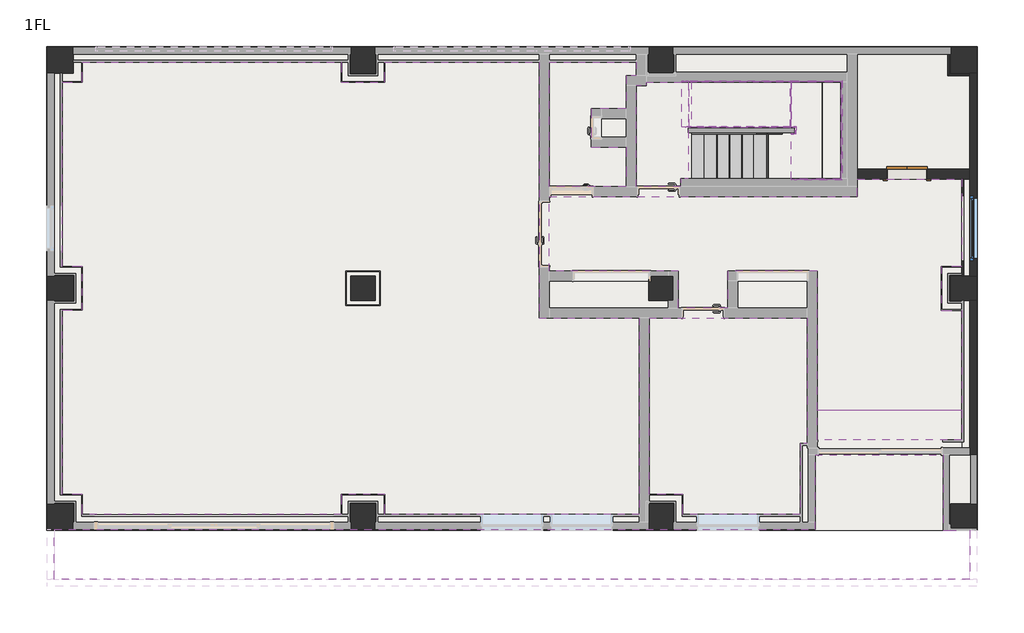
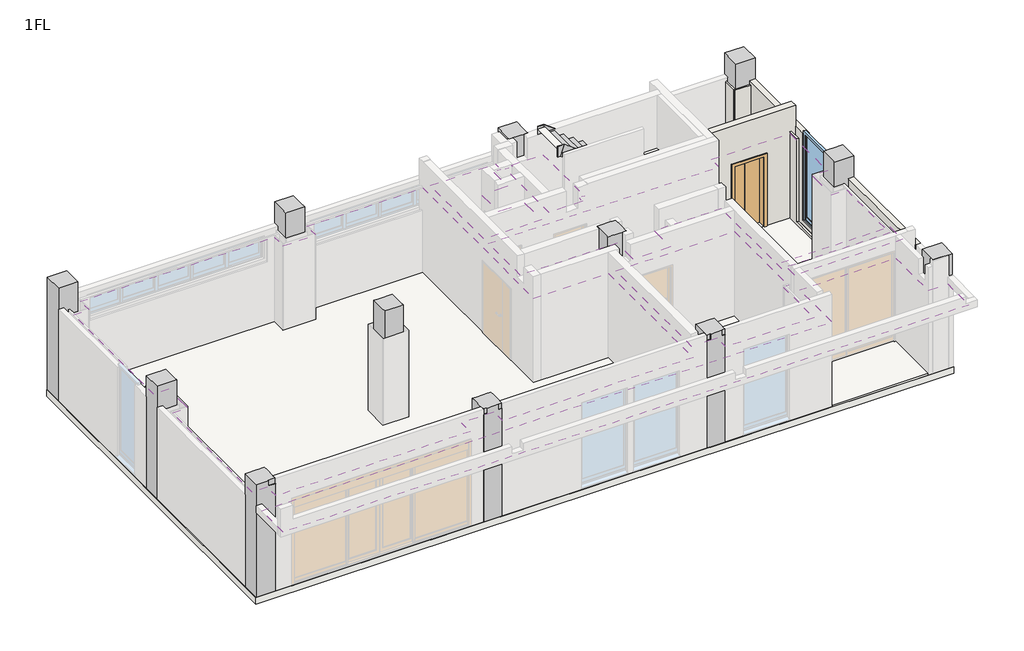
# One storey, part 3 of 3: 13 members, 12 columns, 9 coverings, 8 slabs, 5 walls, 2 stair flights, 1 door, 1 window.
"""IFC4 building model written with IfcOpenShell, lengths in millimetres."""

from ifc_helpers import new_model, si_unit, frame, origin, place, context, project, spatial, polyline, outline, extrude, faceted_brep, transform, mapped, element, save
from components import covering_45d0a06e, elv_h2000xw800_aa5de070, non_monolithic_landing_05e71245, non_monolithic_landing_b5af4ec4, stair_flight_45_mm_tread_10_mm_riser_4c90028d, stair_flight_45_mm_tread_10_mm_riser_32063b4d, window_c87d65a8

model = new_model("IFC4")

# Units and contexts
model_context = context("Model", 3, world=origin())
ifc_project = project(units=[si_unit("LENGTHUNIT", "METRE", prefix="MILLI")], contexts=[model_context])

# Site, building, storey
site = spatial("IfcSite", under=ifc_project)
building = spatial("IfcBuilding", under=site)
storey = spatial("IfcBuildingStorey", under=building, Name="1FL", Elevation=100.0)

# Columns
placement = place(None, origin())
element("IfcColumn", 1, ObjectType="RC柱 矩形_2 : •C1_500×500", at=placement, inside=storey, context=model_context, shape_type="Brep", body=[
    faceted_brep([(-270.0, -270.0, -50.0), (250.0, -270.0, -50.0), (250.0, -270.0, 50.0), (250.0, -270.0, 3100.0), (50.0, -270.0, 3100.0), (50.0, -270.0, 3250.0), (-270.0, -270.0, 3250.0), (-270.0, -270.0, 2650.0), (-270.0, -270.0, 2450.0), (-270.0, -250.0, 3250.0), (-270.0, 250.0, 3250.0), (-270.0, 250.0, 2649.9998563), (-270.0, 250.0, 50.0), (-270.0, 250.0, -50.0), (250.0, -250.0, 3100.0), (50.0, -250.0, 3100.0), (50.0, -250.0, 3250.0), (250.0, 250.0, -50.0), (250.0, 250.0, 3100.0), (250.0, 250.0, 3250.0), (250.0, 150.0, 3250.0), (250.0, -150.0, 3250.0), (250.0, -250.0, 3250.0), (50.0, 250.0, 3250.0), (55.0, 250.0, 3250.0)], [[[0, 1, 2, 3, 4, 5, 6, 7, 8]], [[0, 8, 7, 6, 9, 10, 11, 12, 13]], [[4, 3, 14, 15]], [[5, 4, 15, 16]], [[17, 1, 0, 13]], [[1, 17, 18, 19, 20, 21, 22, 14, 3, 2]], [[17, 13, 12, 11, 10, 23, 24, 19, 18]], [[10, 9, 6, 5, 16, 22, 21, 20, 19, 24, 23]], [[15, 14, 22, 16]]]),
])
element("IfcColumn", 2, ObjectType="RC柱 矩形_2 : •C1_500×500", at=placement, inside=storey, context=model_context, shape_type="Brep", body=[
    faceted_brep([(-270.0, 4340.0, 50.0), (-125.0, 4340.0, 50.0), (250.0, 4340.0, 50.0), (250.0, 4340.0, 3100.0), (250.0, 4340.0, 3250.0), (55.0, 4340.0, 3250.0), (50.0, 4340.0, 3250.0), (-270.0, 4340.0, 3250.0), (-270.0, 4340.0, 2649.9998563), (-270.0, 4840.0, 3250.0), (-270.0, 4840.0, 2649.9998563), (-270.0, 4840.0, 50.0), (-125.0, 4840.0, 50.0), (250.0, 4840.0, 50.0), (250.0, 4840.0, 3100.0), (250.0, 4840.0, 3250.0), (250.0, 4740.0, 3250.0), (250.0, 4440.0, 3250.0), (50.0, 4840.0, 3250.0), (55.0, 4840.0, 3250.0)], [[[0, 1, 2, 3, 4, 5, 6, 7, 8]], [[7, 9, 10, 11, 0, 8]], [[2, 1, 0, 11, 12, 13]], [[2, 13, 14, 15, 16, 17, 4, 3]], [[13, 12, 11, 10, 9, 18, 19, 15, 14]], [[9, 7, 6, 5, 4, 17, 16, 15, 19, 18]]]),
])
element("IfcColumn", 3, ObjectType="RC柱 矩形_2 : •C1_500×500", at=placement, inside=storey, context=model_context, shape_type="Brep", body=[
    faceted_brep([(-270.0, 8930.0, 50.0), (-125.0, 8930.0, 50.0), (250.0, 8930.0, 50.0), (250.0, 8930.0, 3100.0), (250.0, 8930.0, 3250.0), (55.0, 8930.0, 3250.0), (50.0, 8930.0, 3250.0), (-270.0, 8930.0, 3250.0), (-270.0, 8930.0, 2649.9998563), (-270.0, 9450.0, 3250.0), (-270.0, 9450.0, 50.0), (250.0, 9450.0, 50.0), (250.0, 9305.0, 50.0), (250.0, 9450.0, 2650.0), (250.0, 9450.0, 3250.0), (250.0, 9130.0, 3250.0), (250.0, 9125.0, 3250.0)], [[[0, 1, 2, 3, 4, 5, 6, 7, 8]], [[7, 9, 10, 0, 8]], [[2, 1, 0, 10, 11, 12]], [[2, 12, 11, 13, 14, 15, 16, 4, 3]], [[9, 14, 13, 11, 10]], [[9, 7, 6, 5, 4, 16, 15, 14]]]),
])
element("IfcColumn", 4, ObjectType="RC柱 矩形_2 : •C1_500×500", at=placement, inside=storey, context=model_context, shape_type="Brep", body=[
    faceted_brep([(5840.0, 8930.0, 50.0), (6340.0, 8930.0, 50.0), (6340.0, 8930.0, 3240.0), (6340.0, 8930.0, 3250.0), (5940.0, 8930.0, 3250.0), (5890.0, 8930.0, 3250.0), (5840.0, 8930.0, 3250.0), (5840.0, 8930.0, 3100.0), (5840.0, 9450.0, 50.0), (5840.0, 9305.0, 50.0), (5840.0, 9125.0, 3250.0), (5840.0, 9130.0, 3250.0), (5840.0, 9450.0, 3250.0), (5840.0, 9450.0, 2650.0), (6340.0, 9450.0, 50.0), (6340.0, 9305.0, 50.0), (6340.0, 9450.0, 2650.0), (6340.0, 9450.0, 3250.0), (6340.0, 9130.0, 3250.0)], [[[0, 1, 2, 3, 4, 5, 6, 7]], [[8, 9, 0, 7, 6, 10, 11, 12, 13]], [[1, 0, 9, 8, 14, 15]], [[1, 15, 14, 16, 17, 18, 3, 2]], [[12, 17, 16, 14, 8, 13]], [[17, 12, 11, 10, 6, 5, 4, 3, 18]]]),
])
element("IfcColumn", 5, ObjectType="RC柱 矩形 : •C1_500×500", at=placement, inside=storey, context=model_context, shape_type="Brep", body=[
    faceted_brep([(6340.0, 4840.0, 3250.0), (5940.0, 4840.0, 3250.0), (5890.0, 4840.0, 3250.0), (5840.0, 4840.0, 3250.0), (5840.0, 4740.0, 3250.0), (5840.0, 4440.0, 3250.0), (5840.0, 4340.0, 3250.0), (5940.0, 4340.0, 3250.0), (6240.0, 4340.0, 3250.0), (6340.0, 4340.0, 3250.0), (6340.0, 4390.0, 3250.0), (6340.0, 4440.0, 3250.0), (6340.0, 4840.0, 50.0), (5840.0, 4840.0, 50.0), (5840.0, 4840.0, 3100.0), (6340.0, 4840.0, 3240.0), (5840.0, 4340.0, 50.0), (5840.0, 4340.0, 3100.0), (6340.0, 4340.0, 50.0), (6340.0, 4340.0, 3100.0)], [[[0, 1, 2, 3, 4, 5, 6, 7, 8, 9, 10, 11]], [[12, 13, 14, 3, 2, 1, 0, 15]], [[13, 16, 17, 6, 5, 4, 3, 14]], [[16, 18, 19, 9, 8, 7, 6, 17]], [[18, 12, 15, 0, 11, 10, 9, 19]], [[13, 12, 18, 16]]]),
])
element("IfcColumn", 6, ObjectType="RC柱 矩形_2 : •C1_500×500", at=placement, inside=storey, context=model_context, shape_type="Brep", body=[
    faceted_brep([(5840.0, -270.0, -50.0), (6340.0, -270.0, -50.0), (6340.0, -270.0, 50.0), (6340.0, -270.0, 3100.0), (6240.0, -270.0, 3100.0), (6240.0, -270.0, 3250.0), (5940.0, -270.0, 3250.0), (5940.0, -270.0, 3100.0), (5840.0, -270.0, 3100.0), (5840.0, -270.0, 50.0), (5840.0, -250.0, 3100.0), (5840.0, -250.0, 3250.0), (5840.0, -150.0, 3250.0), (5840.0, 150.0, 3250.0), (5840.0, 250.0, 3250.0), (5840.0, 250.0, 3100.0), (5840.0, 250.0, -50.0), (6340.0, -250.0, 3100.0), (6240.0, -250.0, 3100.0), (5940.0, -250.0, 3250.0), (5940.0, -250.0, 3100.0), (6240.0, -250.0, 3250.0), (6340.0, -250.0, 3250.0), (6340.0, 250.0, -50.0), (6340.0, 250.0, 3100.0), (6340.0, 250.0, 3250.0), (6340.0, 150.0, 3250.0), (6340.0, -150.0, 3250.0), (5940.0, 250.0, 3250.0), (6240.0, 250.0, 3250.0)], [[[0, 1, 2, 3, 4, 5, 6, 7, 8, 9]], [[0, 9, 8, 10, 11, 12, 13, 14, 15, 16]], [[4, 3, 17, 18]], [[7, 6, 19, 20]], [[5, 4, 18, 21]], [[10, 20, 19, 11]], [[18, 17, 22, 21]], [[23, 1, 0, 16]], [[1, 23, 24, 25, 26, 27, 22, 17, 3, 2]], [[23, 16, 15, 14, 28, 29, 25, 24]], [[6, 5, 21, 22, 27, 26, 25, 29, 28, 14, 13, 12, 11, 19]], [[8, 7, 20, 10]]]),
])
element("IfcColumn", 7, ObjectType="RC柱 矩形 : •C1_500×500", at=placement, inside=storey, context=model_context, shape_type="Brep", body=[
    faceted_brep([(12340.0, 4840.0, 3250.0), (12240.0, 4840.0, 3250.0), (11840.0, 4840.0, 3250.0), (11840.0, 4440.0, 3250.0), (11840.0, 4390.0, 3250.0), (11840.0, 4340.0, 3250.0), (11940.0, 4340.0, 3250.0), (12240.0, 4340.0, 3250.0), (12340.0, 4340.0, 3250.0), (12340.0, 4390.0, 3250.0), (12340.0, 4440.0, 3250.0), (12340.0, 4740.0, 3250.0), (12340.0, 4840.0, 3240.0), (12340.0, 4840.0, 50.0), (12240.0, 4840.0, 50.0), (11840.0, 4840.0, 50.0), (11840.0, 4840.0, 100.0), (11840.0, 4840.0, 2127.5), (11840.0, 4840.0, 3240.0), (11840.0, 4739.9999966, 50.0), (11840.0, 4340.0, 50.0), (11840.0, 4340.0, 3100.0), (12240.0, 4340.0, 50.0), (12340.0, 4340.0, 50.0), (12340.0, 4340.0, 3100.0)], [[[0, 1, 2, 3, 4, 5, 6, 7, 8, 9, 10, 11]], [[2, 1, 0, 12, 13, 14, 15, 16, 17, 18]], [[15, 19, 20, 21, 5, 4, 3, 2, 18, 17, 16]], [[20, 22, 23, 24, 8, 7, 6, 5, 21]], [[23, 13, 12, 0, 11, 10, 9, 8, 24]], [[15, 14, 13, 23, 22, 20, 19]]]),
])
element("IfcColumn", 8, ObjectType="RC柱 矩形_2 : •C1_500×500", at=placement, inside=storey, context=model_context, shape_type="Brep", body=[
    faceted_brep([(11840.0, -270.0, -50.0), (12340.0, -270.0, -50.0), (12340.0, -270.0, 50.0), (12340.0, -270.0, 3100.0), (12240.0, -270.0, 3100.0), (12240.0, -270.0, 3250.0), (11940.0, -270.0, 3250.0), (11940.0, -270.0, 3100.0), (11840.0, -270.0, 3100.0), (11840.0, -270.0, 50.0), (11840.0, 250.0, -50.0), (11840.0, -250.0, 3100.0), (11840.0, -250.0, 3250.0), (11840.0, -150.0, 3250.0), (11840.0, 150.0, 3250.0), (11840.0, 250.0, 3250.0), (11840.0, 250.0, 3100.0), (11840.0, 250.0, 50.0), (12340.0, -250.0, 3100.0), (12240.0, -250.0, 3100.0), (12240.0, -250.0, 3250.0), (11940.0, -250.0, 3250.0), (11940.0, -250.0, 3100.0), (12340.0, -250.0, 3250.0), (12340.0, 250.0, -50.0), (12340.0, 250.0, 3100.0), (12340.0, 250.0, 3250.0), (12340.0, 150.0, 3250.0), (12340.0, -150.0, 3250.0), (11940.0, 250.0, 3250.0), (12240.0, 250.0, 3250.0)], [[[0, 1, 2, 3, 4, 5, 6, 7, 8, 9]], [[10, 0, 9, 8, 11, 12, 13, 14, 15, 16, 17]], [[18, 19, 4, 3]], [[19, 20, 5, 4]], [[21, 22, 7, 6]], [[19, 18, 23, 20]], [[11, 22, 21, 12]], [[24, 1, 0, 10]], [[1, 24, 25, 26, 27, 28, 23, 18, 3, 2]], [[24, 10, 17, 16, 15, 29, 30, 26, 25]], [[26, 30, 29, 15, 14, 13, 12, 21, 6, 5, 20, 23, 28, 27]], [[22, 11, 8, 7]]]),
])
element("IfcColumn", 9, ObjectType="RC柱 矩形_2 : •C1_500×500", at=placement, inside=storey, context=model_context, shape_type="Brep", body=[
    faceted_brep([(18450.0, -250.0, 3250.0), (18330.0, -250.0, 3250.0), (18130.0, -250.0, 3250.0), (17930.0, -250.0, 3250.0), (17930.0, -250.0, 3100.0), (17930.0, -250.0, 50.0), (18330.0, -250.0, 50.0), (18450.0, -250.0, 50.0), (18450.0, -250.0, 2650.0), (17930.0, 250.0, 50.0), (17930.0, -164.9999682, 50.0), (17930.0, -164.9999682, 3250.0), (17930.0, -150.0, 3250.0), (17930.0, 150.0, 3250.0), (17930.0, 250.0, 3250.0), (17930.0, 250.0, 3100.0), (18330.0, 250.0, 50.0), (18450.0, 250.0, 50.0), (18450.0, 250.0, 3250.0), (18450.0, 250.0, 2650.0), (18125.0, 250.0, 3250.0), (18130.0, 250.0, 3250.0)], [[[0, 1, 2, 3, 4, 5, 6, 7, 8]], [[9, 10, 5, 4, 3, 11, 12, 13, 14, 15]], [[5, 10, 9, 16, 17, 7, 6]], [[18, 0, 8, 7, 17, 19]], [[17, 16, 9, 15, 14, 20, 21, 18, 19]], [[0, 18, 21, 20, 14, 13, 12, 11, 3, 2, 1]]]),
])
element("IfcColumn", 10, ObjectType="RC柱 矩形_2 : •C1_500×500", at=placement, inside=storey, context=model_context, shape_type="Brep", body=[
    faceted_brep([(17930.0, 4340.0, 50.0), (18305.0, 4340.0, 50.0), (18450.0, 4340.0, 50.0), (18450.0, 4340.0, 2650.0), (18450.0, 4340.0, 3250.0), (18130.0, 4340.0, 3250.0), (18125.0, 4340.0, 3250.0), (17930.0, 4340.0, 3250.0), (17930.0, 4340.0, 3100.0), (17930.0, 4840.0, 50.0), (17930.0, 4390.0, 3250.0), (17930.0, 4440.0, 3250.0), (17930.0, 4840.0, 3250.0), (17930.0, 4840.0, 3240.0), (18305.0, 4840.0, 50.0), (18450.0, 4840.0, 50.0), (18450.0, 4840.0, 2650.0), (18450.0, 4840.0, 3250.0), (18125.0, 4840.0, 3250.0), (18130.0, 4840.0, 3250.0)], [[[0, 1, 2, 3, 4, 5, 6, 7, 8]], [[9, 0, 8, 7, 10, 11, 12, 13]], [[2, 1, 0, 9, 14, 15]], [[15, 16, 17, 4, 3, 2]], [[17, 16, 15, 14, 9, 13, 12, 18, 19]], [[4, 17, 19, 18, 12, 11, 10, 7, 6, 5]]]),
])
element("IfcColumn", 11, ObjectType="RC柱 矩形_2 : •C1_500×500", at=placement, inside=storey, context=model_context, shape_type="Brep", body=[
    faceted_brep([(18450.0, 8930.0, 3250.0), (18130.0, 8930.0, 3250.0), (17930.0, 8930.0, 3250.0), (17930.0, 8930.0, 50.0), (18305.0, 8930.0, 50.0), (18450.0, 8930.0, 50.0), (18450.0, 8930.0, 2650.0), (17930.0, 9130.0, 3250.0), (17930.0, 9450.0, 3250.0), (17930.0, 9450.0, 2650.0), (17930.0, 9450.0, 50.0), (17930.0, 9305.0, 50.0), (18450.0, 9450.0, 50.0), (18450.0, 9450.0, 3250.0)], [[[0, 1, 2, 3, 4, 5, 6]], [[2, 7, 8, 9, 10, 11, 3]], [[5, 4, 3, 11, 10, 12]], [[13, 0, 6, 5, 12]], [[8, 13, 12, 10, 9]], [[0, 13, 8, 7, 2, 1]]]),
])
element("IfcColumn", 12, ObjectType="RC柱 矩形_2 : •C1_500×500", at=placement, inside=storey, context=model_context, shape_type="Brep", body=[
    faceted_brep([(11840.0, 8930.0, -50.0), (12340.0, 8930.0, -50.0), (12340.0, 8930.0, 50.0), (12340.0, 8930.0, 3240.0), (12340.0, 8930.0, 3250.0), (12240.0, 8930.0, 3250.0), (11940.0, 8930.0, 3250.0), (11840.0, 8930.0, 3250.0), (11840.0, 8930.0, 3240.0), (11840.0, 8930.0, 50.0), (11840.0, 9450.0, -50.0), (11840.0, 8947.5, 3250.0), (11840.0, 9130.0, 3250.0), (11840.0, 9450.0, 3250.0), (11840.0, 9450.0, 2650.0), (11840.0, 9450.0, 50.0), (12340.0, 9450.0, -50.0), (12340.0, 9450.0, 50.0), (12340.0, 9450.0, 2650.0), (12340.0, 9450.0, 3250.0), (12340.0, 9130.0, 3250.0), (12340.0, 8947.5, 3250.0)], [[[0, 1, 2, 3, 4, 5, 6, 7, 8, 9]], [[10, 0, 9, 8, 7, 11, 12, 13, 14, 15]], [[16, 1, 0, 10]], [[1, 16, 17, 18, 19, 20, 21, 4, 3, 2]], [[16, 10, 15, 14, 13, 19, 18, 17]], [[4, 21, 20, 19, 13, 12, 11, 7, 6, 5]]]),
])

# Coverings
element("IfcCovering", 13, ObjectType="t=4mm", at=placement, inside=storey, context=model_context, shape_type="Brep", body=[
    faceted_brep([(17737.5, 4147.5, 2504.0), (17737.5, 5032.5, 2504.0), (18147.5, 5032.5, 2504.0), (18147.5, 6790.0000027, 2504.0), (16040.0, 6790.0000027, 2504.0), (16040.0, 6440.0, 2504.0), (9840.0, 6440.0, 2504.0), (9840.0, 4939.9999966, 2504.0), (12440.0, 4939.9999966, 2504.0), (12440.0, 4190.0, 2504.0), (13440.0, 4190.0, 2504.0), (13440.0, 4940.0, 2504.0), (15240.0, 4940.0, 2504.0), (15240.0, 2136.5, 2504.0), (15240.0, 2132.5, 2504.0), (18147.5, 2132.5, 2504.0), (18147.5, 2136.5, 2504.0), (18147.5, 4147.5, 2504.0), (17737.5, 4147.5, 2500.0), (18147.5, 4147.5, 2500.0), (18147.5, 2132.5, 2500.0), (15240.0, 2132.5, 2500.0), (15240.0, 4940.0, 2500.0), (13440.0, 4940.0, 2500.0), (13440.0, 4190.0, 2500.0), (12440.0, 4190.0, 2500.0), (12440.0, 4939.9999966, 2500.0), (9840.0, 4939.9999966, 2500.0), (9840.0, 6440.0, 2500.0), (16040.0, 6440.0, 2500.0), (16040.0, 6790.0000027, 2500.0), (18147.5, 6790.0000027, 2500.0), (18147.5, 5032.5, 2500.0), (17737.5, 5032.5, 2500.0)], [[[0, 1, 2, 3, 4, 5, 6, 7, 8, 9, 10, 11, 12, 13, 14, 15, 16, 17]], [[18, 19, 20, 21, 22, 23, 24, 25, 26, 27, 28, 29, 30, 31, 32, 33]], [[1, 0, 18, 33]], [[2, 1, 33, 32]], [[3, 2, 32, 31]], [[4, 3, 31, 30]], [[5, 4, 30, 29]], [[6, 5, 29, 28]], [[7, 6, 28, 27]], [[8, 7, 27, 26]], [[9, 8, 26, 25]], [[10, 9, 25, 24]], [[11, 10, 24, 23]], [[12, 11, 23, 22]], [[14, 13, 12, 22, 21]], [[15, 14, 21, 20]], [[17, 16, 15, 20, 19]], [[0, 17, 19, 18]]]),
])
element("IfcCovering", 14, ObjectType="t=4mm", at=placement, inside=storey, context=model_context, shape_type="Brep", body=[
    faceted_brep([(18147.5, 1532.5, 2679.0), (18147.5, 2136.5, 2679.0), (15240.0, 2136.5, 2679.0), (15240.0, 1532.5, 2679.0), (18147.5, 1532.5, 2675.0), (15240.0, 1532.5, 2675.0), (15240.0, 2132.5, 2675.0), (15240.0, 2136.5, 2675.0), (18147.5, 2136.5, 2675.0), (18147.5, 2132.5, 2675.0)], [[[0, 1, 2, 3]], [[4, 5, 6, 7, 8, 9]], [[1, 0, 4, 9, 8]], [[2, 1, 8, 7]], [[3, 2, 7, 6, 5]], [[0, 3, 5, 4]]]),
])
element("IfcCovering", 15, ObjectType="t=4mm", at=placement, inside=storey, context=model_context, shape_type="SweptSolid", body=[
    extrude(outline(polyline([(14897.5, 1462.5), (14897.5, 32.5), (12528.5, 32.5), (12528.5, 438.5), (11849.9999991, 438.5), (11849.9999991, 3990.0), (15040.0, 3990.0), (15040.0, 1462.5), (14897.5, 1462.5)])), frame((0.0, 0.0, 2500.0), z_axis=(0.0, 0.0, 1.0), x_axis=(1.0, 0.0, 0.0)), (0.0, 0.0, 1.0), 4.0),
])
element("IfcCovering", 16, ObjectType="t=4mm", at=placement, inside=storey, context=model_context, shape_type="SweptSolid", body=[
    extrude(outline(polyline([(11649.9999991, 3990.0), (11649.9999991, 32.5), (6528.5, 32.5), (6528.5, 438.5), (5651.5, 438.5), (5651.5, 32.5), (438.5, 32.5), (438.5, 438.5), (32.5, 438.5), (32.5, 4151.5), (438.5, 4151.5), (438.5, 5028.5), (32.5, 5028.5), (32.5, 8741.5), (438.5, 8741.5), (438.5, 9147.5), (5651.5, 9147.5), (5651.5, 8741.5), (6528.5000044, 8741.5), (6528.5000044, 9147.5), (9640.0, 9147.5), (9640.0, 3990.0), (11649.9999991, 3990.0)]), holes=[polyline([(6438.5, 4241.5), (6438.5, 4938.4999969), (5741.5, 4938.4999969), (5741.5, 4241.5), (6438.5, 4241.5)])]), frame((0.0, 0.0, 2500.0), z_axis=(0.0, 0.0, 1.0), x_axis=(1.0, 0.0, 0.0)), (0.0, 0.0, 1.0), 4.0),
])
element("IfcCovering", 17, ObjectType="t=4mm", at=placement, inside=storey, context=model_context, shape_type="SweptSolid", body=[
    extrude(outline(polyline([(11390.0000045, 6640.0), (9840.0, 6640.0), (9840.0, 9147.5), (11590.452236, 9147.5), (11590.452236, 8880.0), (11390.0000045, 8880.0), (11390.0000045, 8210.0), (10690.0, 8210.0), (10690.0, 7440.0), (11390.0000045, 7440.0), (11390.0000045, 6640.0)])), frame((0.0, 0.0, 2500.0), z_axis=(0.0, 0.0, 1.0), x_axis=(1.0, 0.0, 0.0)), (0.0, 0.0, 1.0), 4.0),
])
element("IfcCovering", 18, ObjectType="天井-スパンドレル02 t=12mm", at=placement, inside=storey, context=model_context, shape_type="SweptSolid", body=[
    extrude(outline(polyline([(18305.0, -1275.0), (-125.0, -1275.0), (-125.0, -270.0), (15200.0, -270.0), (15200.0, 1230.0), (17780.0, 1230.0), (17780.0, -284.9999682), (18305.0, -284.9999682), (18305.0, -1275.0)])), frame((0.0, 0.0, 2460.0), z_axis=(0.0, 0.0, 1.0), x_axis=(1.0, 0.0, 0.0)), (0.0, 0.0, 1.0), 12.0),
])
element("IfcCovering", 19, ObjectType="t=4mm", at=placement, inside=storey, context=model_context, shape_type="Brep", body=[
    faceted_brep([(15710.0, 6804.5, 954.0), (15710.0, 8747.5, 954.0), (15335.0, 8747.5, 954.0), (15335.0, 6804.5, 954.0), (15338.9999956, 6804.5, 954.0), (15710.0, 6804.5, 950.0), (15335.0, 6804.5, 950.0), (15335.0, 8747.5, 950.0), (15710.0, 8747.5, 950.0)], [[[0, 1, 2, 3, 4]], [[5, 6, 7, 8]], [[1, 0, 5, 8]], [[2, 1, 8, 7]], [[3, 2, 7, 6]], [[0, 4, 3, 6, 5]]]),
])
element("IfcCovering", 20, ObjectType="t=4mm", at=placement, inside=storey, context=model_context, shape_type="SweptSolid", body=[
    extrude(outline(polyline([(11590.0000045, 8680.0), (11790.452236, 8680.0), (11790.452236, 8747.5), (12642.5000045, 8747.5), (12642.5000045, 6804.5), (12490.0, 6804.5), (12490.0, 6640.0), (11590.0000045, 6640.0), (11590.0000045, 8680.0)])), frame((0.0, 0.0, 2640.0), z_axis=(0.0, 0.0, 1.0), x_axis=(1.0, 0.0, 0.0)), (0.0, 0.0, 1.0), 4.0),
])
covering_shape = covering_45d0a06e(model_context)
element("IfcCovering", 21, ObjectType="天井 1 : 天井 1", at=placement, inside=storey, context=model_context, shape_type="MappedRepresentation", body=[
    mapped(covering_shape, transform((0.0, 0.0, 0.0), x_axis=(1.0, 0.0, 0.0), y_axis=(0.0, 1.0, 0.0), z_axis=(0.0, 0.0, 1.0))),
])

# Door
elv_h2000xw800_shape = elv_h2000xw800_aa5de070(model_context)
element("IfcDoor", 22, ObjectType="D_EV_壁付 : ELV_H2000xW800", at=placement, inside=storey, context=model_context, shape_type="MappedRepresentation", body=[
    mapped(elv_h2000xw800_shape, transform((17145.4856443, 6890.0000027, 100.0), x_axis=(1.0, 0.0, 0.0), y_axis=(0.0, 1.0, 0.0), z_axis=(0.0, 0.0, 1.0))),
])

# Members
element("IfcMember", 23, ObjectType="Stringer - 12 mm Width", at=placement, inside=storey, context=model_context, shape_type="SweptSolid", body=[
    extrude(outline(polyline([(338.9838425, 12712.5), (100.0, 12712.5), (100.0, 12893.9149939), (1433.6290044, 14712.5), (1805.6505092, 14712.5), (338.9838425, 12712.5)])), frame((0.0, 7700.0, 0.0), z_axis=(0.0, 1.0, 0.0), x_axis=(0.0, 0.0, 1.0)), (0.0, 0.0, 1.0), 16.0),
])
element("IfcMember", 24, ObjectType="Stringer - 12 mm Width", at=placement, inside=storey, context=model_context, shape_type="SweptSolid", body=[
    extrude(outline(polyline([(338.9838425, 12712.5), (100.0, 12712.5), (100.0, 12893.9149939), (1517.5, 14826.8695394), (1817.5, 14728.6583965), (338.9838425, 12712.5)])), frame((0.0, 6774.0, 0.0), z_axis=(0.0, 1.0, 0.0), x_axis=(0.0, 0.0, 1.0)), (0.0, 0.0, 1.0), 16.0),
])
element("IfcMember", 25, ObjectType="Stringer - 12 mm Width", at=placement, inside=storey, context=model_context, shape_type="SweptSolid", body=[
    extrude(outline(polyline([(14696.5000334, 8775.9999854), (14712.5000334, 8759.9999854), (14712.5000334, 7850.0000116), (14696.5000334, 7834.0000116), (14696.5000334, 8775.9999854)])), frame((0.0, 0.0, 1517.5), z_axis=(0.0, 0.0, 1.0), x_axis=(1.0, 0.0, 0.0)), (0.0, 0.0, 1.0), 300.0),
])
element("IfcMember", 26, ObjectType="Stringer - 12 mm Width", at=placement, inside=storey, context=model_context, shape_type="SweptSolid", body=[
    extrude(outline(polyline([(14696.5000334, 7834.0000116), (14712.5000334, 7850.0000116), (14812.4999776, 7850.0000116), (14796.4999776, 7834.0000116), (14696.5000334, 7834.0000116)])), frame((0.0, 0.0, 1517.5), z_axis=(0.0, 0.0, 1.0), x_axis=(1.0, 0.0, 0.0)), (0.0, 0.0, 1.0), 300.0),
])
element("IfcMember", 27, ObjectType="Stringer - 12 mm Width", at=placement, inside=storey, context=model_context, shape_type="SweptSolid", body=[
    extrude(outline(polyline([(14796.4999776, 7834.0000116), (14812.4999776, 7850.0000116), (14812.4999776, 7700.0000224), (14796.4999776, 7716.0000224), (14796.4999776, 7834.0000116)])), frame((0.0, 0.0, 1517.5), z_axis=(0.0, 0.0, 1.0), x_axis=(1.0, 0.0, 0.0)), (0.0, 0.0, 1.0), 300.0),
])
element("IfcMember", 28, ObjectType="Stringer - 12 mm Width", at=placement, inside=storey, context=model_context, shape_type="SweptSolid", body=[
    extrude(outline(polyline([(14796.4999776, 7716.0000224), (14812.4999776, 7700.0000224), (14712.5, 7700.0000224), (14712.5, 7716.0000224), (14796.4999776, 7716.0000224)])), frame((0.0, 0.0, 1517.5), z_axis=(0.0, 0.0, 1.0), x_axis=(1.0, 0.0, 0.0)), (0.0, 0.0, 1.0), 300.0),
])
element("IfcMember", 29, ObjectType="Stringer - 12 mm Width", at=placement, inside=storey, context=model_context, shape_type="Brep", body=[
    faceted_brep([(14728.6583965, 6790.0, 1817.5), (14728.6583965, 6774.0, 1817.5), (15738.5, 6774.0, 1817.5), (15722.5, 6790.0, 1817.5), (14826.8695394, 6790.0, 1517.5), (15722.5, 6790.0, 1517.5), (14826.8695394, 6774.0, 1517.5), (15738.5, 6774.0, 1517.5)], [[[0, 1, 2, 3]], [[4, 0, 3, 5]], [[6, 4, 5, 7]], [[1, 6, 7, 2]], [[1, 0, 4, 6]], [[2, 7, 5, 3]]]),
])
element("IfcMember", 30, ObjectType="Stringer - 12 mm Width", at=placement, inside=storey, context=model_context, shape_type="SweptSolid", body=[
    extrude(outline(polyline([(15738.5, 6774.0), (15722.5, 6790.0), (15722.5, 8759.9999854), (15738.5, 8775.9999854), (15738.5, 6774.0)])), frame((0.0, 0.0, 1517.5), z_axis=(0.0, 0.0, 1.0), x_axis=(1.0, 0.0, 0.0)), (0.0, 0.0, 1.0), 300.0),
])
element("IfcMember", 31, ObjectType="Stringer - 12 mm Width", at=placement, inside=storey, context=model_context, shape_type="SweptSolid", body=[
    extrude(outline(polyline([(15738.5, 8775.9999854), (15722.5, 8759.9999854), (14712.5000334, 8759.9999854), (14696.5000334, 8775.9999854), (15738.5, 8775.9999854)])), frame((0.0, 0.0, 1517.5), z_axis=(0.0, 0.0, 1.0), x_axis=(1.0, 0.0, 0.0)), (0.0, 0.0, 1.0), 300.0),
])
element("IfcMember", 32, ObjectType="Stringer - 12 mm Width", at=placement, inside=storey, context=model_context, shape_type="SweptSolid", body=[
    extrude(outline(polyline([(1616.9623378, 14700.5000334), (1988.9838425, 14700.5000334), (3467.5, 12684.3416368), (3167.5, 12586.130494), (1616.9623378, 14700.5000334)])), frame((0.0, 7833.9999985, 0.0), z_axis=(0.0, 1.0, 0.0), x_axis=(0.0, 0.0, 1.0)), (0.0, 0.0, 1.0), 16.0),
])
element("IfcMember", 33, ObjectType="Stringer - 12 mm Width", at=placement, inside=storey, context=model_context, shape_type="SweptSolid", body=[
    extrude(outline(polyline([(1616.9623378, 14700.5000334), (1988.9838425, 14700.5000334), (3467.5, 12684.3416368), (3167.5, 12586.130494), (1616.9623378, 14700.5000334)])), frame((0.0, 8759.9999985, 0.0), z_axis=(0.0, 1.0, 0.0), x_axis=(0.0, 0.0, 1.0)), (0.0, 0.0, 1.0), 16.0),
])
element("IfcMember", 34, ObjectType="Stringer - 12 mm Width", at=placement, inside=storey, context=model_context, shape_type="SweptSolid", body=[
    extrude(outline(polyline([(3467.5, 12512.5), (3167.5, 12512.5), (3167.5, 12586.130494), (3467.5, 12684.3416368), (3467.5, 12512.5)])), frame((0.0, 7833.9999985, 0.0), z_axis=(0.0, 1.0, 0.0), x_axis=(0.0, 0.0, 1.0)), (0.0, 0.0, 1.0), 16.0),
])
element("IfcMember", 35, ObjectType="Stringer - 12 mm Width", at=placement, inside=storey, context=model_context, shape_type="SweptSolid", body=[
    extrude(outline(polyline([(3167.5, 12586.130494), (3467.5, 12684.3416368), (3467.5, 12512.5), (3167.5, 12512.5), (3167.5, 12586.130494)])), frame((0.0, 8759.9999985, 0.0), z_axis=(0.0, 1.0, 0.0), x_axis=(0.0, 0.0, 1.0)), (0.0, 0.0, 1.0), 16.0),
])

# Slabs
element("IfcSlab", 36, ObjectType="•S18", at=placement, inside=storey, context=model_context, shape_type="SweptSolid", body=[
    extrude(outline(polyline([(18465.0, 9465.0), (18465.0, -284.9999682), (-285.0, -284.9999682), (-285.0, 9465.0), (18465.0, 9465.0)])), frame((0.0, 0.0, -130.0), z_axis=(0.0, 0.0, 1.0), x_axis=(1.0, 0.0, 0.0)), (0.0, 0.0, 1.0), 180.0),
])
element("IfcSlab", 37, ObjectType="磁器質タイル貼 t=50mm", at=placement, inside=storey, context=model_context, shape_type="Brep", body=[
    faceted_brep([(13440.0, 4940.0, 50.0), (13440.0, 4190.0, 50.0), (12440.0, 4190.0, 50.0), (12440.0, 4939.9999966, 50.0), (9840.0, 4939.9999966, 50.0), (9840.0, 5022.5, 50.0), (9675.0, 5022.5, 50.0), (9675.0, 6352.5, 50.0), (9840.0, 6352.5, 50.0), (9840.0, 6480.0, 50.0), (10705.0, 6480.0, 50.0), (10705.0, 6440.0, 50.0), (11625.0, 6440.0, 50.0), (11625.0, 6475.0, 50.0), (11640.0, 6475.0, 50.0), (11640.0, 6605.0, 50.0), (12440.0, 6605.0, 50.0), (12440.0, 6475.0, 50.0), (12455.0, 6475.0, 50.0), (12455.0, 6440.0, 50.0), (16040.0, 6440.0, 50.0), (16040.0, 6640.0, 50.0), (16040.0, 6790.0000027, 50.0), (18147.5, 6790.0000027, 50.0), (18147.5, 5032.5, 50.0), (17737.5, 5032.5, 50.0), (17737.5, 4147.5, 50.0), (18147.5, 4147.5, 50.0), (18147.5, 1230.0, 50.0), (17780.0, 1230.0, 50.0), (17780.0, -284.9999682, 50.0), (15200.0, -284.9999682, 50.0), (15200.0, 1230.0, 50.0), (15240.0, 1230.0, 50.0), (15240.0, 4940.0, 50.0), (13440.0, 4940.0, 100.0), (15240.0, 4940.0, 100.0), (15240.0, 1230.0, 100.0), (15200.0, 1230.0, 100.0), (15200.0, -284.9999682, 100.0), (17780.0, -284.9999682, 100.0), (17780.0, 1230.0, 100.0), (18147.5, 1230.0, 100.0), (18147.5, 4147.5, 100.0), (17737.5, 4147.5, 100.0), (17737.5, 5032.5, 100.0), (18147.5, 5032.5, 100.0), (18147.5, 6790.0000027, 100.0), (16040.0, 6790.0000027, 100.0), (16040.0, 6440.0, 100.0), (12467.5, 6440.0, 100.0), (12455.0, 6440.0, 100.0), (12455.0, 6475.0, 100.0), (12440.0, 6475.0, 100.0), (12440.0, 6605.0, 100.0), (11640.0, 6605.0, 100.0), (11640.0, 6475.0, 100.0), (11625.0, 6475.0, 100.0), (11625.0, 6440.0, 100.0), (11612.5, 6440.0, 100.0), (10705.0, 6440.0, 100.0), (10705.0, 6480.0, 100.0), (9850.0, 6480.0, 100.0), (9840.0, 6480.0, 100.0), (9840.0, 6440.0, 100.0), (9840.0, 6352.5, 100.0), (9675.0, 6352.5, 100.0), (9675.0, 6340.0, 100.0), (9675.0, 5035.0, 100.0), (9675.0, 5022.5, 100.0), (9840.0, 5022.5, 100.0), (9840.0, 4939.9999966, 100.0), (12440.0, 4939.9999966, 100.0), (12440.0, 4190.0, 100.0), (13440.0, 4190.0, 100.0), (10705.0, 6480.0, 85.0), (10705.0, 6440.0, 85.0)], [[[0, 1, 2, 3, 4, 5, 6, 7, 8, 9, 10, 11, 12, 13, 14, 15, 16, 17, 18, 19, 20, 21, 22, 23, 24, 25, 26, 27, 28, 29, 30, 31, 32, 33, 34]], [[35, 36, 37, 38, 39, 40, 41, 42, 43, 44, 45, 46, 47, 48, 49, 50, 51, 52, 53, 54, 55, 56, 57, 58, 59, 60, 61, 62, 63, 64, 65, 66, 67, 68, 69, 70, 71, 72, 73, 74]], [[1, 0, 35, 74]], [[2, 1, 74, 73]], [[3, 2, 73, 72]], [[4, 3, 72, 71]], [[5, 4, 71, 70]], [[6, 5, 70, 69]], [[7, 6, 69, 68, 67, 66]], [[8, 7, 66, 65]], [[9, 8, 65, 64, 63]], [[10, 9, 63, 62, 61, 75]], [[22, 21, 20, 49, 48]], [[23, 22, 48, 47]], [[24, 23, 47, 46]], [[25, 24, 46, 45]], [[26, 25, 45, 44]], [[27, 26, 44, 43]], [[28, 27, 43, 42]], [[29, 28, 42, 41]], [[30, 29, 41, 40]], [[31, 30, 40, 39]], [[32, 31, 39, 38]], [[33, 32, 38, 37]], [[34, 33, 37, 36]], [[0, 34, 36, 35]], [[13, 12, 58, 57]], [[14, 13, 57, 56]], [[15, 14, 56, 55]], [[16, 15, 55, 54]], [[17, 16, 54, 53]], [[18, 17, 53, 52]], [[19, 18, 52, 51]], [[20, 19, 51, 50, 49]], [[11, 10, 75, 61, 60, 76]], [[12, 11, 76, 60, 59, 58]]]),
])
element("IfcSlab", 38, ObjectType="ビニル床ビシート-t50", at=placement, inside=storey, context=model_context, shape_type="Brep", body=[
    faceted_brep([(12500.0, 3990.0, 50.0), (12500.0, 4190.0, 50.0), (13380.0, 4190.0, 50.0), (13380.0, 3990.0, 50.0), (15040.0, 3990.0, 50.0), (15040.0, 1462.5, 50.0), (14897.5, 1462.5, 50.0), (14897.5, 32.5, 50.0), (12528.5, 32.5, 50.0), (12528.5, 438.5, 50.0), (11849.9999991, 438.5, 50.0), (11849.9999991, 3990.0, 50.0), (12500.0, 3990.0, 100.0), (11849.9999991, 3990.0, 100.0), (11849.9999991, 438.5, 100.0), (12528.5, 438.5, 100.0), (12528.5, 32.5, 100.0), (14897.5, 32.5, 100.0), (14897.5, 1462.5, 100.0), (15040.0, 1462.5, 100.0), (15040.0, 3990.0, 100.0), (13380.0, 3990.0, 100.0), (13380.0, 4190.0, 100.0), (13367.5, 4190.0, 100.0), (12512.5, 4190.0, 100.0), (12500.0, 4190.0, 100.0)], [[[0, 1, 2, 3, 4, 5, 6, 7, 8, 9, 10, 11]], [[12, 13, 14, 15, 16, 17, 18, 19, 20, 21, 22, 23, 24, 25]], [[5, 4, 20, 19]], [[8, 7, 17, 16]], [[11, 10, 14, 13]], [[0, 11, 13, 12]], [[1, 0, 12, 25]], [[2, 1, 25, 24, 23, 22]], [[3, 2, 22, 21]], [[4, 3, 21, 20]], [[6, 5, 19, 18]], [[7, 6, 18, 17]], [[9, 8, 16, 15]], [[10, 9, 15, 14]]]),
])
element("IfcSlab", 39, ObjectType="磁器質タイル貼 t=50mm", at=placement, inside=storey, context=model_context, shape_type="SweptSolid", body=[
    extrude(outline(polyline([(5651.5, 9147.5), (5651.5, 8741.5), (6528.5000044, 8741.5), (6528.5000044, 9147.5), (9640.0, 9147.5), (9640.0, 6352.5), (9675.0, 6352.5), (9675.0, 5022.5), (9640.0, 5022.5), (9640.0, 3990.0), (11649.9999991, 3990.0), (11649.9999991, 32.5), (6528.5, 32.5), (6528.5, 438.5), (5651.5, 438.5), (5651.5, 32.5), (438.5, 32.5), (438.5, 438.5), (32.5, 438.5), (32.5, 4151.5), (438.5, 4151.5), (438.5, 5028.5), (32.5, 5028.5), (32.5, 8741.5), (438.5, 8741.5), (438.5, 9147.5), (5651.5, 9147.5)]), holes=[polyline([(6438.5, 4938.4999969), (5741.5, 4938.4999969), (5741.5, 4241.5), (6438.5, 4241.5), (6438.5, 4938.4999969)])]), frame((0.0, 0.0, 50.0), z_axis=(0.0, 0.0, 1.0), x_axis=(1.0, 0.0, 0.0)), (0.0, 0.0, 1.0), 50.0),
])
element("IfcSlab", 40, ObjectType="ビニル床ビシート-t50", at=placement, inside=storey, context=model_context, shape_type="SweptSolid", body=[
    extrude(outline(polyline([(9840.0, 9147.5), (11590.452236, 9147.5), (11590.452236, 8880.0), (11390.0000045, 8880.0), (11390.0000045, 8210.0), (10690.0, 8210.0), (10690.0, 7440.0), (11390.0000045, 7440.0), (11390.0000045, 6640.0), (9840.0, 6640.0), (9840.0, 9147.5)])), frame((0.0, 0.0, 50.0), z_axis=(0.0, 0.0, 1.0), x_axis=(1.0, 0.0, 0.0)), (0.0, 0.0, 1.0), 50.0),
])
element("IfcSlab", 41, ObjectType="ビニル床ビシート-t50", at=placement, inside=storey, context=model_context, shape_type="SweptSolid", body=[
    extrude(outline(polyline([(11790.452236, 8680.0), (11790.452236, 8747.5), (15840.0, 8747.5), (15840.0, 6640.0), (11590.0000045, 6640.0), (11590.0000045, 8680.0), (11790.452236, 8680.0)])), frame((0.0, 0.0, 50.0), z_axis=(0.0, 0.0, 1.0), x_axis=(1.0, 0.0, 0.0)), (0.0, 0.0, 1.0), 50.0),
])
non_monolithic_landing_shape = non_monolithic_landing_05e71245(model_context)
element("IfcSlab", 42, ObjectType="Non-Monolithic Landing", at=placement, inside=storey, context=model_context, shape_type="MappedRepresentation", body=[
    mapped(non_monolithic_landing_shape, transform((0.0, 0.0, 0.0), x_axis=(1.0, 0.0, 0.0), y_axis=(0.0, 1.0, 0.0), z_axis=(0.0, 0.0, 1.0))),
])
non_monolithic_landing_2_shape = non_monolithic_landing_b5af4ec4(model_context)
element("IfcSlab", 43, ObjectType="Non-Monolithic Landing", at=placement, inside=storey, context=model_context, shape_type="MappedRepresentation", body=[
    mapped(non_monolithic_landing_2_shape, transform((0.0, 0.0, 0.0), x_axis=(1.0, 0.0, 0.0), y_axis=(0.0, 1.0, 0.0), z_axis=(0.0, 0.0, 1.0))),
])

# Stair flights
stair_flight_45_mm_tread_10_mm_riser_shape = stair_flight_45_mm_tread_10_mm_riser_4c90028d(model_context)
element("IfcStairFlight", 44, ObjectType="45 mm Tread 10 mm Riser", at=placement, inside=storey, context=model_context, shape_type="MappedRepresentation", body=[
    mapped(stair_flight_45_mm_tread_10_mm_riser_shape, transform((0.0, 0.0, 0.0), x_axis=(1.0, 0.0, 0.0), y_axis=(0.0, 1.0, 0.0), z_axis=(0.0, 0.0, 1.0))),
])
stair_flight_45_mm_tread_10_mm_riser_2_shape = stair_flight_45_mm_tread_10_mm_riser_32063b4d(model_context)
element("IfcStairFlight", 45, ObjectType="45 mm Tread 10 mm Riser", at=placement, inside=storey, context=model_context, shape_type="MappedRepresentation", body=[
    mapped(stair_flight_45_mm_tread_10_mm_riser_2_shape, transform((0.0, 0.0, 0.0), x_axis=(1.0, 0.0, 0.0), y_axis=(0.0, 1.0, 0.0), z_axis=(0.0, 0.0, 1.0))),
])

# Walls
element("IfcWall", 46, ObjectType="•_RC120+押出法ポリスチレンフォーム1種 t25", at=placement, inside=storey, context=model_context, shape_type="Brep", body=[
    faceted_brep([(18305.0, 1230.0, 50.0), (18305.0, 1230.0, 2650.0), (18305.0, 4340.0, 2650.0), (18305.0, 4340.0, 50.0), (18305.0, 1375.0, 50.0), (18450.0, 1230.0, 2650.0), (18450.0, 1230.0, 50.0), (18450.0, 4340.0, 50.0), (18450.0, 4340.0, 2650.0), (18330.0, 1230.0, 50.0), (18330.0, 1230.0, 2650.0)], [[[0, 1, 2, 3, 4]], [[5, 6, 7, 8]], [[6, 9, 0, 4, 3, 7]], [[1, 10, 5, 8, 2]], [[1, 0, 9, 6, 5, 10]], [[3, 2, 8, 7]]]),
    faceted_brep([(18305.0, 5140.0, 2650.0), (18305.0, 5140.0, 185.0), (18305.0, 6460.0, 185.0), (18305.0, 6460.0, 2650.0), (18305.0, 8930.0, 2650.0), (18305.0, 8930.0, 50.0), (18305.0, 8910.0000823, 50.0), (18305.0, 8880.0000823, 50.0), (18305.0, 6990.0000027, 50.0), (18305.0, 6790.0000027, 50.0), (18305.0, 4840.0, 50.0), (18305.0, 4840.0, 2650.0), (18450.0, 6410.0, 115.0), (18450.0, 5190.0, 115.0), (18450.0, 5190.0, 170.0), (18450.0, 5190.0, 2650.0), (18450.0, 4840.0, 2650.0), (18450.0, 4840.0, 50.0), (18450.0, 8930.0, 50.0), (18450.0, 8930.0, 2650.0), (18450.0, 6410.0, 2650.0), (18450.0, 6410.0, 170.0), (18390.0, 5140.0, 2650.0), (18390.0, 5190.0, 2650.0), (18390.0, 6460.0, 2650.0), (18390.0, 6410.0, 2650.0), (18390.0, 5140.0, 115.0), (18320.0, 5140.0, 115.0), (18320.0, 5140.0, 185.0), (18320.0, 6460.0, 185.0), (18320.0, 6460.0, 115.0), (18390.0, 6460.0, 115.0), (18390.0, 5190.0, 115.0), (18390.0, 6410.0, 115.0)], [[[0, 1, 2, 3, 4, 5, 6, 7, 8, 9, 10, 11]], [[12, 13, 14, 15, 16, 17, 18, 19, 20, 21]], [[17, 10, 9, 8, 7, 6, 5, 18]], [[22, 0, 11, 16, 15, 23]], [[3, 24, 25, 20, 19, 4]], [[5, 4, 19, 18]], [[26, 27, 28, 1, 0, 22]], [[29, 30, 31, 24, 3, 2]], [[1, 28, 29, 2]], [[27, 26, 32, 13, 12, 33, 31, 30]], [[32, 26, 22, 23]], [[31, 33, 25, 24]], [[27, 30, 29, 28]], [[13, 32, 23, 15, 14]], [[33, 12, 21, 20, 25]], [[11, 10, 17, 16]]]),
])
element("IfcWall", 47, ObjectType="•RC200", at=placement, inside=storey, context=model_context, shape_type="Brep", body=[
    faceted_brep([(16040.0, 6790.0000027, 50.0), (18147.5, 6790.0000027, 50.0), (18190.0, 6790.0000027, 50.0), (18305.0, 6790.0000027, 50.0), (18305.0, 6790.0000027, 3240.0), (16040.0, 6790.0000027, 3240.0), (16640.0, 6790.0000027, 100.0), (16640.0, 6790.0000027, 2125.4), (17452.7, 6790.0000027, 2125.4), (17452.7, 6790.0000027, 100.0), (16040.0, 6990.0000027, 50.0), (16040.0, 6990.0000027, 3240.0), (18305.0, 6990.0000027, 3240.0), (18305.0, 6990.0000027, 50.0), (16640.0, 6990.0000027, 100.0), (17452.7, 6990.0000027, 100.0), (17452.7, 6990.0000027, 2125.4), (16640.0, 6990.0000027, 2125.4)], [[[0, 1, 2, 3, 4, 5], [6, 7, 8, 9]], [[10, 11, 12, 13], [14, 15, 16, 17]], [[3, 2, 1, 0, 10, 13]], [[5, 4, 12, 11]], [[4, 3, 13, 12]], [[0, 5, 11, 10]], [[7, 6, 14, 17]], [[8, 7, 17, 16]], [[9, 8, 16, 15]], [[6, 9, 15, 14]]]),
])
element("IfcWall", 48, ObjectType="•RC30+12.5", at=placement, inside=storey, context=model_context, shape_type="Brep", body=[
    faceted_brep([(18147.5, 6790.0000027, 50.0), (18147.5, 5032.5, 50.0), (18147.5, 5020.0, 50.0), (18147.5, 4890.0000823, 50.0), (18147.5, 4860.0000823, 50.0), (18147.5, 4840.0, 50.0), (18147.5, 4840.0, 2550.0), (18147.5, 4860.0000823, 2550.0), (18147.5, 4890.0000823, 2550.0), (18147.5, 5020.0, 2550.0), (18147.5, 5032.5, 2550.0), (18147.5, 5140.0, 2550.0), (18147.5, 5140.0, 185.0), (18147.5, 6460.0, 185.0), (18147.5, 6460.0, 2550.0), (18147.5, 6790.0000027, 2550.0), (18190.0, 4840.0, 50.0), (18190.0, 6790.0000027, 50.0), (18190.0, 6790.0000027, 2550.0), (18190.0, 6460.0, 2550.0), (18190.0, 6460.0, 185.0), (18190.0, 5140.0, 185.0), (18190.0, 5140.0, 2550.0), (18190.0, 4840.0, 2550.0)], [[[0, 1, 2, 3, 4, 5, 6, 7, 8, 9, 10, 11, 12, 13, 14, 15]], [[16, 17, 18, 19, 20, 21, 22, 23]], [[5, 4, 3, 2, 1, 0, 17, 16]], [[6, 5, 16, 23]], [[6, 23, 22, 11, 10, 9, 8, 7]], [[18, 15, 14, 19]], [[0, 15, 18, 17]], [[21, 12, 11, 22]], [[13, 20, 19, 14]], [[12, 21, 20, 13]]]),
])
element("IfcWall", 49, ObjectType="•t=30mm", at=placement, inside=storey, context=model_context, shape_type="Brep", body=[
    faceted_brep([(18305.0, 8910.0000823, 50.0), (17899.9999426, 8910.0000823, 50.0), (17869.9999426, 8910.0000823, 50.0), (17869.9999426, 8910.0000823, 2550.0), (17899.9999426, 8910.0000823, 2550.0), (18305.0, 8910.0000823, 2550.0), (18305.0, 8880.0000823, 50.0), (18305.0, 8880.0000823, 2550.0), (17869.9999426, 8880.0000823, 2550.0), (17869.9999426, 8880.0000823, 50.0)], [[[0, 1, 2, 3, 4, 5]], [[6, 7, 8, 9]], [[2, 1, 0, 6, 9]], [[5, 4, 3, 8, 7]], [[3, 2, 9, 8]], [[0, 5, 7, 6]]]),
])
element("IfcWall", 50, ObjectType="•t=30mm", at=placement, inside=storey, context=model_context, shape_type="SweptSolid", body=[
    extrude(outline(polyline([(17899.9999426, 9305.0), (17899.9999426, 8910.0000823), (17869.9999426, 8910.0000823), (17869.9999426, 9305.0), (17899.9999426, 9305.0)])), frame((0.0, 0.0, 50.0), z_axis=(0.0, 0.0, 1.0), x_axis=(1.0, 0.0, 0.0)), (0.0, 0.0, 1.0), 2500.0),
])

# Window
window_shape = window_c87d65a8(model_context)
element("IfcWindow", 51, ObjectType="380_片開窓_01 : AW2-H2430W1200", at=placement, inside=storey, context=model_context, shape_type="MappedRepresentation", body=[
    mapped(window_shape, transform((18377.5, 5800.0, -680.0), x_axis=(0.0, -1.0, 0.0), y_axis=(1.0, 0.0, 0.0), z_axis=(0.0, 0.0, 1.0))),
])

save(model, "model.ifc")
